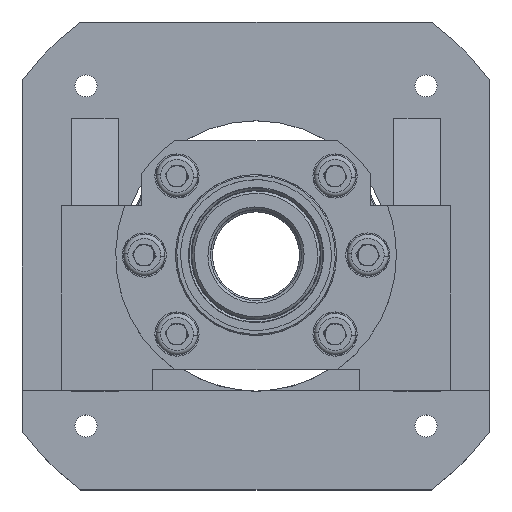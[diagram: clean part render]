
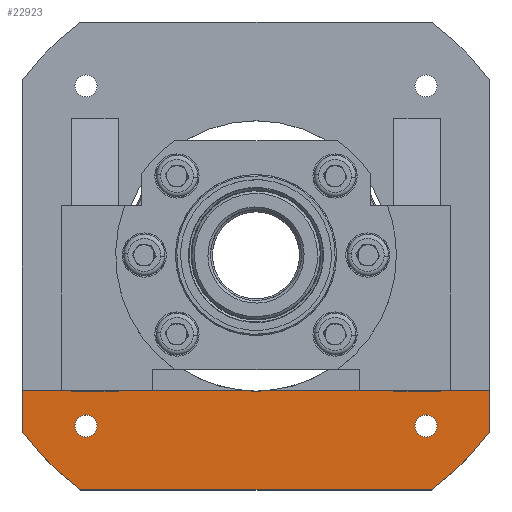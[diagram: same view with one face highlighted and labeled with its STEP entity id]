
A CAD part, top view. The second image highlights one B-rep face of the part: STEP entity #22923.
In plain terms, the highlighted planar face has unit normal (0, 0, 1).
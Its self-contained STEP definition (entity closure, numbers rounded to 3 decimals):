
#412 = ORIENTED_EDGE ( 'NONE', *, *, #17261, .F. ) ;
#886 = CARTESIAN_POINT ( 'NONE',  ( 0., 0., 21. ) ) ;
#925 = VERTEX_POINT ( 'NONE', #6284 ) ;
#1265 = CARTESIAN_POINT ( 'NONE',  ( -90., 90., 21. ) ) ;
#1283 = DIRECTION ( 'NONE',  ( 1., 0., 0. ) ) ;
#1452 = ORIENTED_EDGE ( 'NONE', *, *, #8700, .T. ) ;
#1727 = DIRECTION ( 'NONE',  ( 1., 0., 0. ) ) ;
#2748 = AXIS2_PLACEMENT_3D ( 'NONE', #24927, #12361, #27037 ) ;
#2877 = EDGE_CURVE ( 'NONE', #9028, #7148, #22020, .T. ) ;
#2943 = AXIS2_PLACEMENT_3D ( 'NONE', #26419, #13856, #1283 ) ;
#2981 = DIRECTION ( 'NONE',  ( 1., 0., 0. ) ) ;
#3355 = VERTEX_POINT ( 'NONE', #25235 ) ;
#3610 = DIRECTION ( 'NONE',  ( 0., 0., 1. ) ) ;
#4023 = EDGE_LOOP ( 'NONE', ( #8589, #16811, #1452, #20800, #23446, #19233, #24867, #16333 ) ) ;
#4037 = AXIS2_PLACEMENT_3D ( 'NONE', #16169, #3610, #18269 ) ;
#4409 = DIRECTION ( 'NONE',  ( 1., 0., 0. ) ) ;
#4548 = DIRECTION ( 'NONE',  ( 0., 0., 1. ) ) ;
#4725 = VERTEX_POINT ( 'NONE', #17079 ) ;
#4777 = VERTEX_POINT ( 'NONE', #25526 ) ;
#4880 = LINE ( 'NONE', #1265, #20952 ) ;
#5163 = DIRECTION ( 'NONE',  ( 0., 0., 1. ) ) ;
#5253 = DIRECTION ( 'NONE',  ( 0., 1., 0. ) ) ;
#5381 = CARTESIAN_POINT ( 'NONE',  ( -67.5, -90., 21. ) ) ;
#6200 = EDGE_CURVE ( 'NONE', #9573, #11581, #17671, .T. ) ;
#6284 = CARTESIAN_POINT ( 'NONE',  ( -69.657, -65.407, 21. ) ) ;
#6442 = CARTESIAN_POINT ( 'NONE',  ( 0., 0., 21. ) ) ;
#6722 = EDGE_CURVE ( 'NONE', #10580, #17269, #24232, .T. ) ;
#6802 = CARTESIAN_POINT ( 'NONE',  ( 5.578, -51.7, 21. ) ) ;
#7010 = AXIS2_PLACEMENT_3D ( 'NONE', #17115, #4548, #19224 ) ;
#7148 = VERTEX_POINT ( 'NONE', #14645 ) ;
#7205 = LINE ( 'NONE', #24439, #23970 ) ;
#7376 = AXIS2_PLACEMENT_3D ( 'NONE', #886, #15545, #2981 ) ;
#8043 = CARTESIAN_POINT ( 'NONE',  ( -90., -51.7, 21. ) ) ;
#8119 = VECTOR ( 'NONE', #4409, 1000. ) ;
#8294 = CIRCLE ( 'NONE', #2748, 4.25 ) ;
#8543 = FACE_OUTER_BOUND ( 'NONE', #4023, .T. ) ;
#8551 = DIRECTION ( 'NONE',  ( 1., 0., 0. ) ) ;
#8589 = ORIENTED_EDGE ( 'NONE', *, *, #24857, .T. ) ;
#8700 = EDGE_CURVE ( 'NONE', #11581, #4725, #20298, .T. ) ;
#9028 = VERTEX_POINT ( 'NONE', #10269 ) ;
#9355 = EDGE_CURVE ( 'NONE', #24941, #17269, #13723, .T. ) ;
#9573 = VERTEX_POINT ( 'NONE', #19683 ) ;
#10269 = CARTESIAN_POINT ( 'NONE',  ( 69.657, -65.407, 21. ) ) ;
#10580 = VERTEX_POINT ( 'NONE', #6802 ) ;
#10736 = CARTESIAN_POINT ( 'NONE',  ( -104.626, -51.7, 21. ) ) ;
#10852 = DIRECTION ( 'NONE',  ( 1., 0., 0. ) ) ;
#11187 = AXIS2_PLACEMENT_3D ( 'NONE', #6442, #21126, #8551 ) ;
#11581 = VERTEX_POINT ( 'NONE', #5381 ) ;
#12143 = AXIS2_PLACEMENT_3D ( 'NONE', #26851, #14295, #1727 ) ;
#12361 = DIRECTION ( 'NONE',  ( 0., 0., 1. ) ) ;
#13723 = LINE ( 'NONE', #10736, #8119 ) ;
#13856 = DIRECTION ( 'NONE',  ( 0., 0., 1. ) ) ;
#14295 = DIRECTION ( 'NONE',  ( 0., 0., 1. ) ) ;
#14495 = EDGE_LOOP ( 'NONE', ( #14779, #25017 ) ) ;
#14645 = CARTESIAN_POINT ( 'NONE',  ( 61.157, -65.407, 21. ) ) ;
#14779 = ORIENTED_EDGE ( 'NONE', *, *, #22585, .F. ) ;
#15441 = FACE_BOUND ( 'NONE', #17402, .T. ) ;
#15463 = CIRCLE ( 'NONE', #2943, 4.25 ) ;
#15545 = DIRECTION ( 'NONE',  ( 0., 0., -1. ) ) ;
#16127 = VERTEX_POINT ( 'NONE', #26696 ) ;
#16169 = CARTESIAN_POINT ( 'NONE',  ( 65.407, -65.407, 21. ) ) ;
#16333 = ORIENTED_EDGE ( 'NONE', *, *, #9355, .F. ) ;
#16759 = CIRCLE ( 'NONE', #7010, 4.25 ) ;
#16811 = ORIENTED_EDGE ( 'NONE', *, *, #6200, .T. ) ;
#16871 = AXIS2_PLACEMENT_3D ( 'NONE', #23977, #5163, #19838 ) ;
#17079 = CARTESIAN_POINT ( 'NONE',  ( 67.5, -90., 21. ) ) ;
#17115 = CARTESIAN_POINT ( 'NONE',  ( 65.407, -65.407, 21. ) ) ;
#17261 = EDGE_CURVE ( 'NONE', #16127, #925, #8294, .T. ) ;
#17269 = VERTEX_POINT ( 'NONE', #20700 ) ;
#17297 = EDGE_CURVE ( 'NONE', #4725, #4777, #18808, .T. ) ;
#17402 = EDGE_LOOP ( 'NONE', ( #20062, #412 ) ) ;
#17671 = CIRCLE ( 'NONE', #12143, 112.5 ) ;
#17727 = PLANE ( 'NONE',  #16871 ) ;
#18269 = DIRECTION ( 'NONE',  ( 1., 0., 0. ) ) ;
#18808 = CIRCLE ( 'NONE', #11187, 112.5 ) ;
#19187 = CARTESIAN_POINT ( 'NONE',  ( -104.626, -51.7, 21. ) ) ;
#19224 = DIRECTION ( 'NONE',  ( 1., 0., 0. ) ) ;
#19233 = ORIENTED_EDGE ( 'NONE', *, *, #19364, .F. ) ;
#19364 = EDGE_CURVE ( 'NONE', #10580, #3355, #22036, .T. ) ;
#19683 = CARTESIAN_POINT ( 'NONE',  ( -90., -67.5, 21. ) ) ;
#19783 = EDGE_CURVE ( 'NONE', #925, #16127, #15463, .T. ) ;
#19838 = DIRECTION ( 'NONE',  ( 1., 0., 0. ) ) ;
#20062 = ORIENTED_EDGE ( 'NONE', *, *, #19783, .F. ) ;
#20298 = LINE ( 'NONE', #25440, #25223 ) ;
#20700 = CARTESIAN_POINT ( 'NONE',  ( -5.578, -51.7, 21. ) ) ;
#20725 = VECTOR ( 'NONE', #10852, 1000. ) ;
#20800 = ORIENTED_EDGE ( 'NONE', *, *, #17297, .T. ) ;
#20952 = VECTOR ( 'NONE', #24389, 1000. ) ;
#21126 = DIRECTION ( 'NONE',  ( 0., 0., 1. ) ) ;
#22020 = CIRCLE ( 'NONE', #4037, 4.25 ) ;
#22036 = LINE ( 'NONE', #19187, #20725 ) ;
#22585 = EDGE_CURVE ( 'NONE', #7148, #9028, #16759, .T. ) ;
#22923 = ADVANCED_FACE ( 'NONE', ( #24640, #15441, #8543 ), #17727, .T. ) ;
#23072 = EDGE_CURVE ( 'NONE', #4777, #3355, #7205, .T. ) ;
#23320 = DIRECTION ( 'NONE',  ( 1., 0., 0. ) ) ;
#23446 = ORIENTED_EDGE ( 'NONE', *, *, #23072, .T. ) ;
#23970 = VECTOR ( 'NONE', #5253, 1000. ) ;
#23977 = CARTESIAN_POINT ( 'NONE',  ( -104.626, -112., 21. ) ) ;
#24232 = CIRCLE ( 'NONE', #7376, 52. ) ;
#24389 = DIRECTION ( 'NONE',  ( 0., -1., 0. ) ) ;
#24439 = CARTESIAN_POINT ( 'NONE',  ( 90., 90., 21. ) ) ;
#24640 = FACE_BOUND ( 'NONE', #14495, .T. ) ;
#24857 = EDGE_CURVE ( 'NONE', #24941, #9573, #4880, .T. ) ;
#24867 = ORIENTED_EDGE ( 'NONE', *, *, #6722, .T. ) ;
#24927 = CARTESIAN_POINT ( 'NONE',  ( -65.407, -65.407, 21. ) ) ;
#24941 = VERTEX_POINT ( 'NONE', #8043 ) ;
#25017 = ORIENTED_EDGE ( 'NONE', *, *, #2877, .F. ) ;
#25223 = VECTOR ( 'NONE', #23320, 1000. ) ;
#25235 = CARTESIAN_POINT ( 'NONE',  ( 90., -51.7, 21. ) ) ;
#25440 = CARTESIAN_POINT ( 'NONE',  ( -90., -90., 21. ) ) ;
#25526 = CARTESIAN_POINT ( 'NONE',  ( 90., -67.5, 21. ) ) ;
#26419 = CARTESIAN_POINT ( 'NONE',  ( -65.407, -65.407, 21. ) ) ;
#26696 = CARTESIAN_POINT ( 'NONE',  ( -61.157, -65.407, 21. ) ) ;
#26851 = CARTESIAN_POINT ( 'NONE',  ( 0., 0., 21. ) ) ;
#27037 = DIRECTION ( 'NONE',  ( 1., 0., 0. ) ) ;
